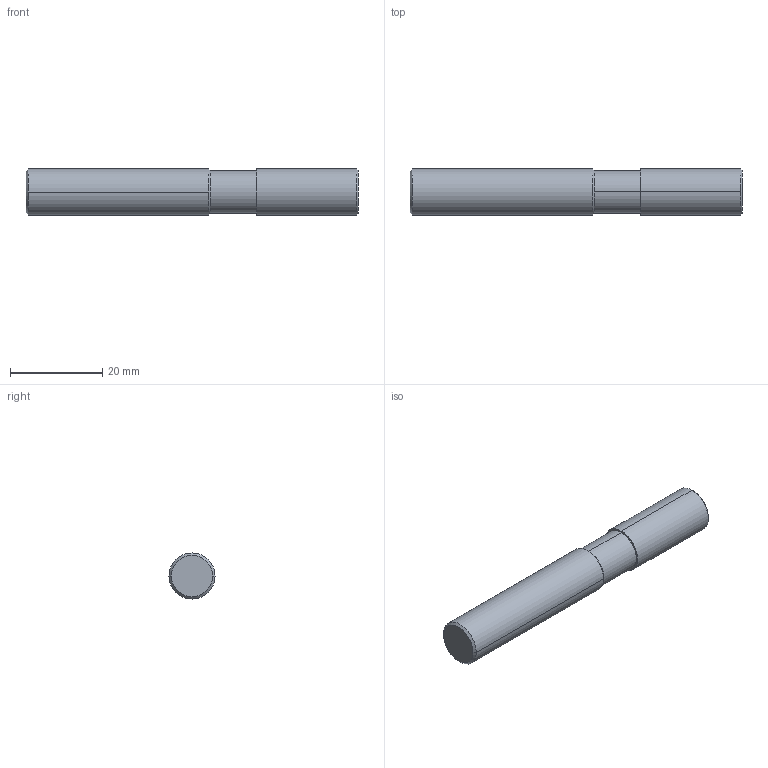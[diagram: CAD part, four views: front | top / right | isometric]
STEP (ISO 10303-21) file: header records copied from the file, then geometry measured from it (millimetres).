
FILE_DESCRIPTION (( 'STEP AP214' ), '1' );
FILE_NAME ('GMF61915.STEP', '2018-03-06T02:32:59', ( '' ), ( '' ), 'SwSTEP 2.0', 'SolidWorks 2014', '' );
FILE_SCHEMA (( 'AUTOMOTIVE_DESIGN' ));
Length unit declared in the file: millimetre
Products named in the file (1): GMF61915
Bounding box: 72 x 10 x 10 mm (x, y, z)
Volume: 5526.6 mm3; surface area: 2395.3 mm2
Topology: 1 solids, 1 shells, 15 faces, 30 edges, 18 vertices
Faces by surface type: cone 6, cylinder 6, plane 3
Entity records: 494 total; most frequent: DIRECTION 80, CARTESIAN_POINT 64, ORIENTED_EDGE 60, AXIS2_PLACEMENT_3D 34, EDGE_CURVE 30, CIRCLE 18, VERTEX_POINT 18, EDGE_LOOP 16
